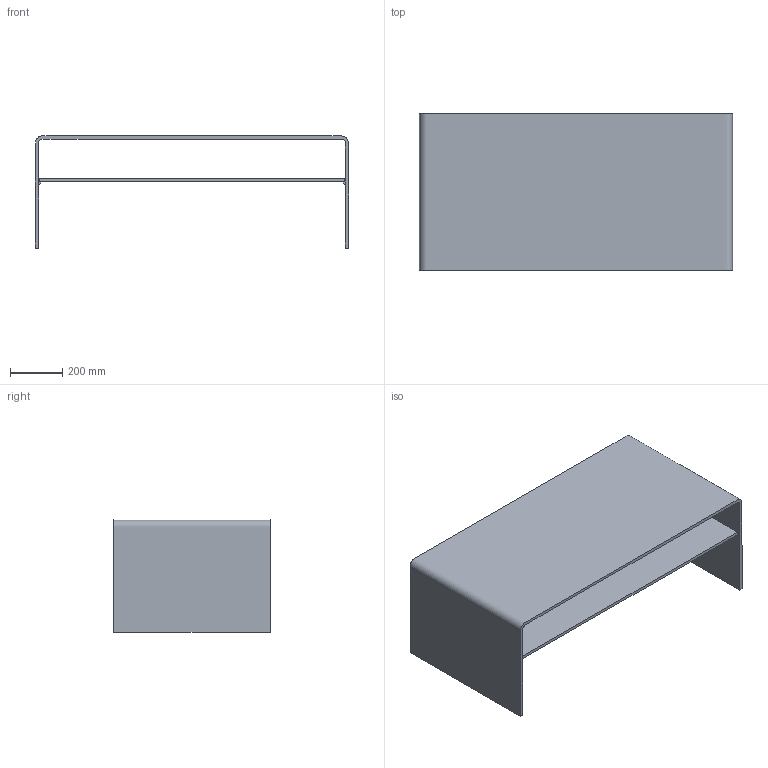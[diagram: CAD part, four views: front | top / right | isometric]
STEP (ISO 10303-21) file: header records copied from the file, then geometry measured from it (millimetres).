
FILE_DESCRIPTION(/* description */ (''),/* implementation_level */ '2;1');
FILE_NAME(/* name */ '0161 - Rialto Piano 120x60 H43',/* time_stamp */ '2010-11-04T09:23:53+01:00',/* author */ (''),/* organization */ (''),/* preprocessor_version */ 'ST-DEVELOPER v10',/* originating_system */ '',/* authorisation */ '');
FILE_SCHEMA (('CONFIG_CONTROL_DESIGN'));
Length unit declared in the file: centimetre
Products named in the file (1): 1
Bounding box: 1200 x 600 x 430 mm (x, y, z)
Volume: 16776516.3 mm3; surface area: 3861543.4 mm2
Topology: 6 solids, 6 shells, 40 faces, 84 edges, 56 vertices
Faces by surface type: plane 38, bspline 2
Entity records: 1100 total; most frequent: CARTESIAN_POINT 376, ORIENTED_EDGE 168, EDGE_CURVE 84, B_SPLINE_CURVE_WITH_KNOTS 80, VERTEX_POINT 56, DIRECTION 42, ADVANCED_FACE 40, FACE_OUTER_BOUND 40
